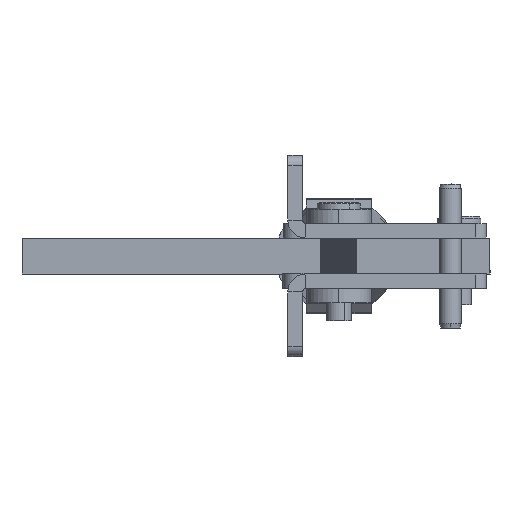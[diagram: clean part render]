
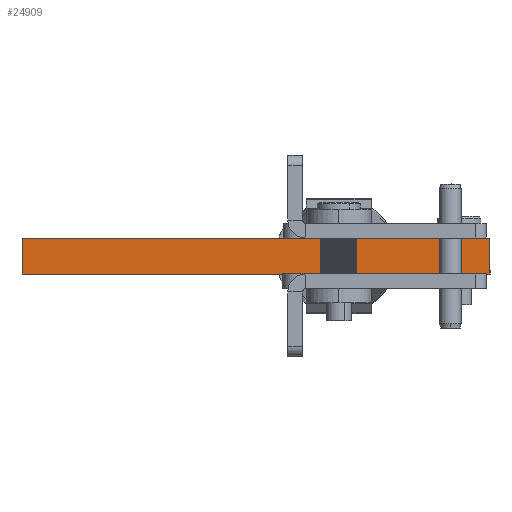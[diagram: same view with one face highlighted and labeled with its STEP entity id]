
A CAD part, front view. The second image highlights one B-rep face of the part: STEP entity #24909.
In plain terms, the highlighted planar face has unit normal (0, -1, 0).
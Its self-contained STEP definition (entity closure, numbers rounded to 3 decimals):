
#1882 = DIRECTION ( 'NONE',  ( 0., 0., -1. ) ) ;
#2248 = DIRECTION ( 'NONE',  ( 1., 0., 0. ) ) ;
#4026 = AXIS2_PLACEMENT_3D ( 'NONE', #17329, #8024, #31243 ) ;
#4278 = CARTESIAN_POINT ( 'NONE',  ( 130., 0., 10. ) ) ;
#4991 = CARTESIAN_POINT ( 'NONE',  ( 130., 0., 0. ) ) ;
#6671 = CARTESIAN_POINT ( 'NONE',  ( 0., 0., 0. ) ) ;
#7757 = ORIENTED_EDGE ( 'NONE', *, *, #25750, .T. ) ;
#8024 = DIRECTION ( 'NONE',  ( 0., 1., 0. ) ) ;
#8926 = EDGE_CURVE ( 'NONE', #31312, #11374, #38940, .T. ) ;
#8974 = CARTESIAN_POINT ( 'NONE',  ( 0., 0., 10. ) ) ;
#11373 = LINE ( 'NONE', #24628, #30387 ) ;
#11374 = VERTEX_POINT ( 'NONE', #6671 ) ;
#15099 = ORIENTED_EDGE ( 'NONE', *, *, #23978, .F. ) ;
#17329 = CARTESIAN_POINT ( 'NONE',  ( 0., 0., 10. ) ) ;
#18159 = ORIENTED_EDGE ( 'NONE', *, *, #32593, .F. ) ;
#22727 = CARTESIAN_POINT ( 'NONE',  ( 0., 0., 10. ) ) ;
#23112 = DIRECTION ( 'NONE',  ( 1., 0., 0. ) ) ;
#23754 = CARTESIAN_POINT ( 'NONE',  ( 0., 0., 10. ) ) ;
#23978 = EDGE_CURVE ( 'NONE', #33214, #27087, #37276, .T. ) ;
#24628 = CARTESIAN_POINT ( 'NONE',  ( 0., 0., 0. ) ) ;
#24909 = ADVANCED_FACE ( 'NONE', ( #30171 ), #27768, .F. ) ;
#25278 = DIRECTION ( 'NONE',  ( 0., 0., -1. ) ) ;
#25750 = EDGE_CURVE ( 'NONE', #11374, #27087, #11373, .T. ) ;
#27087 = VERTEX_POINT ( 'NONE', #4991 ) ;
#27768 = PLANE ( 'NONE',  #4026 ) ;
#27926 = VECTOR ( 'NONE', #23112, 1000. ) ;
#28264 = CARTESIAN_POINT ( 'NONE',  ( 130., 0., 10. ) ) ;
#30171 = FACE_OUTER_BOUND ( 'NONE', #34612, .T. ) ;
#30387 = VECTOR ( 'NONE', #2248, 1000. ) ;
#31243 = DIRECTION ( 'NONE',  ( 0., 0., -1. ) ) ;
#31312 = VERTEX_POINT ( 'NONE', #22727 ) ;
#32593 = EDGE_CURVE ( 'NONE', #31312, #33214, #33089, .T. ) ;
#33089 = LINE ( 'NONE', #23754, #27926 ) ;
#33099 = ORIENTED_EDGE ( 'NONE', *, *, #8926, .T. ) ;
#33214 = VERTEX_POINT ( 'NONE', #28264 ) ;
#34515 = VECTOR ( 'NONE', #1882, 1000. ) ;
#34612 = EDGE_LOOP ( 'NONE', ( #7757, #15099, #18159, #33099 ) ) ;
#37276 = LINE ( 'NONE', #4278, #34515 ) ;
#38940 = LINE ( 'NONE', #8974, #40980 ) ;
#40980 = VECTOR ( 'NONE', #25278, 1000. ) ;
